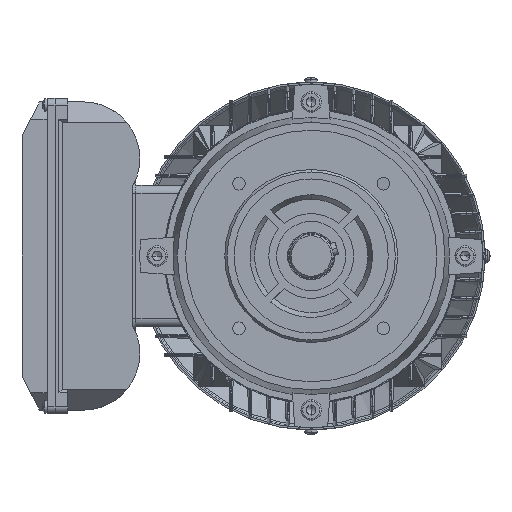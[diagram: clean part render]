
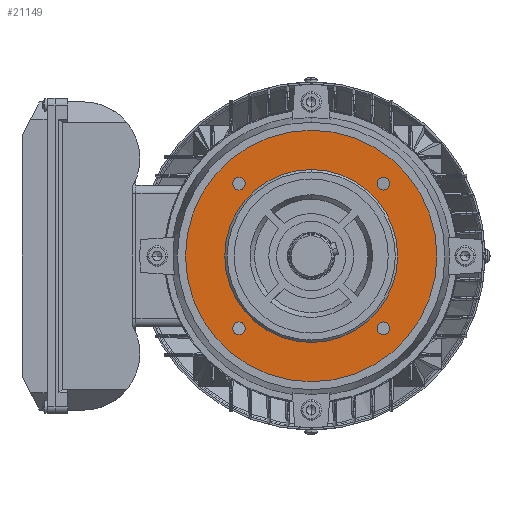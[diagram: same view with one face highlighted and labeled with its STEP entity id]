
A CAD part, left-side view. The second image highlights one B-rep face of the part: STEP entity #21149.
In plain terms, the highlighted planar face has unit normal (-1, 0, 0).
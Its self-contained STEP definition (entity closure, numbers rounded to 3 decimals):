
#2264 = EDGE_CURVE ( 'NONE', #133114, #27767, #58707, .T. ) ;
#2865 = PLANE ( 'NONE',  #82896 ) ;
#6044 = CARTESIAN_POINT ( 'NONE',  ( -144.002, 50.169, -41.962 ) ) ;
#7359 = ORIENTED_EDGE ( 'NONE', *, *, #12200, .T. ) ;
#7698 = CIRCLE ( 'NONE', #38023, 80. ) ;
#7933 = DIRECTION ( 'NONE',  ( -1., 0., 0. ) ) ;
#7934 = DIRECTION ( 'NONE',  ( -1., 0., 0. ) ) ;
#9108 = DIRECTION ( 'NONE',  ( 0., 0., 1. ) ) ;
#9194 = EDGE_CURVE ( 'NONE', #142028, #137079, #45504, .T. ) ;
#10282 = VERTEX_POINT ( 'NONE', #81961 ) ;
#10480 = AXIS2_PLACEMENT_3D ( 'NONE', #91845, #134977, #24678 ) ;
#11156 = AXIS2_PLACEMENT_3D ( 'NONE', #18908, #7933, #131356 ) ;
#12086 = DIRECTION ( 'NONE',  ( 0., 0., 1. ) ) ;
#12200 = EDGE_CURVE ( 'NONE', #10282, #144237, #37989, .T. ) ;
#12598 = CARTESIAN_POINT ( 'NONE',  ( -144.002, 4.207, -80. ) ) ;
#14479 = AXIS2_PLACEMENT_3D ( 'NONE', #131830, #109905, #9108 ) ;
#14653 = AXIS2_PLACEMENT_3D ( 'NONE', #74705, #38204, #16293 ) ;
#16293 = DIRECTION ( 'NONE',  ( 0., 0., -1. ) ) ;
#16483 = ORIENTED_EDGE ( 'NONE', *, *, #89538, .F. ) ;
#16718 = FACE_BOUND ( 'NONE', #20250, .T. ) ;
#18462 = DIRECTION ( 'NONE',  ( 1., 0., 0. ) ) ;
#18908 = CARTESIAN_POINT ( 'NONE',  ( -144.002, -41.755, 45.962 ) ) ;
#20250 = EDGE_LOOP ( 'NONE', ( #97738, #53109 ) ) ;
#21149 = ADVANCED_FACE ( 'NONE', ( #91965, #81731, #104364, #16718, #91246, #26938 ), #2865, .F. ) ;
#21968 = EDGE_LOOP ( 'NONE', ( #127686, #35513 ) ) ;
#23622 = VERTEX_POINT ( 'NONE', #53544 ) ;
#24580 = CARTESIAN_POINT ( 'NONE',  ( -144.002, 50.169, 49.962 ) ) ;
#24678 = DIRECTION ( 'NONE',  ( 0., 0., 1. ) ) ;
#25402 = VERTEX_POINT ( 'NONE', #42986 ) ;
#25496 = DIRECTION ( 'NONE',  ( 0., -1., 0. ) ) ;
#25738 = EDGE_CURVE ( 'NONE', #95005, #59445, #114322, .T. ) ;
#26938 = FACE_BOUND ( 'NONE', #135735, .T. ) ;
#27767 = VERTEX_POINT ( 'NONE', #81804 ) ;
#28448 = EDGE_CURVE ( 'NONE', #135898, #23622, #71522, .T. ) ;
#29508 = CARTESIAN_POINT ( 'NONE',  ( -144.002, -41.755, 41.962 ) ) ;
#29662 = CARTESIAN_POINT ( 'NONE',  ( -144.002, 4.207, 0. ) ) ;
#34003 = CARTESIAN_POINT ( 'NONE',  ( -144.002, -41.755, 45.962 ) ) ;
#35513 = ORIENTED_EDGE ( 'NONE', *, *, #55130, .F. ) ;
#36056 = CIRCLE ( 'NONE', #143343, 55. ) ;
#37989 = CIRCLE ( 'NONE', #14653, 55. ) ;
#38023 = AXIS2_PLACEMENT_3D ( 'NONE', #91375, #48298, #59250 ) ;
#38204 = DIRECTION ( 'NONE',  ( 1., 0., 0. ) ) ;
#39694 = AXIS2_PLACEMENT_3D ( 'NONE', #29662, #106403, #61137 ) ;
#42235 = CIRCLE ( 'NONE', #126230, 4. ) ;
#42986 = CARTESIAN_POINT ( 'NONE',  ( -144.002, -41.755, 49.962 ) ) ;
#43862 = EDGE_CURVE ( 'NONE', #105347, #25402, #144406, .T. ) ;
#45504 = CIRCLE ( 'NONE', #106070, 4. ) ;
#46148 = CARTESIAN_POINT ( 'NONE',  ( -144.002, -41.755, -45.962 ) ) ;
#48184 = CARTESIAN_POINT ( 'NONE',  ( -144.002, 4.207, 55. ) ) ;
#48298 = DIRECTION ( 'NONE',  ( 1., 0., 0. ) ) ;
#50955 = DIRECTION ( 'NONE',  ( 0., 0., 1. ) ) ;
#52094 = ORIENTED_EDGE ( 'NONE', *, *, #95176, .F. ) ;
#53109 = ORIENTED_EDGE ( 'NONE', *, *, #96586, .F. ) ;
#53544 = CARTESIAN_POINT ( 'NONE',  ( -144.002, 50.169, -49.962 ) ) ;
#55130 = EDGE_CURVE ( 'NONE', #23622, #135898, #134168, .T. ) ;
#58707 = CIRCLE ( 'NONE', #114682, 4. ) ;
#59250 = DIRECTION ( 'NONE',  ( 0., 0., -1. ) ) ;
#59354 = DIRECTION ( 'NONE',  ( -1., 0., 0. ) ) ;
#59445 = VERTEX_POINT ( 'NONE', #12598 ) ;
#61137 = DIRECTION ( 'NONE',  ( 0., 0., -1. ) ) ;
#63524 = CIRCLE ( 'NONE', #14479, 4. ) ;
#66198 = DIRECTION ( 'NONE',  ( -1., 0., 0. ) ) ;
#69218 = EDGE_LOOP ( 'NONE', ( #16483, #106775 ) ) ;
#70657 = CARTESIAN_POINT ( 'NONE',  ( -144.002, 4.207, 80. ) ) ;
#71521 = DIRECTION ( 'NONE',  ( 1., 0., 0. ) ) ;
#71522 = CIRCLE ( 'NONE', #97152, 4. ) ;
#74705 = CARTESIAN_POINT ( 'NONE',  ( -144.002, 4.207, 0. ) ) ;
#81597 = ORIENTED_EDGE ( 'NONE', *, *, #124187, .F. ) ;
#81731 = FACE_BOUND ( 'NONE', #113963, .T. ) ;
#81804 = CARTESIAN_POINT ( 'NONE',  ( -144.002, -41.755, -49.962 ) ) ;
#81961 = CARTESIAN_POINT ( 'NONE',  ( -144.002, 4.207, -55. ) ) ;
#82896 = AXIS2_PLACEMENT_3D ( 'NONE', #115325, #71521, #25496 ) ;
#83293 = CARTESIAN_POINT ( 'NONE',  ( -144.002, -41.755, -41.962 ) ) ;
#83770 = AXIS2_PLACEMENT_3D ( 'NONE', #34003, #66198, #12086 ) ;
#86099 = DIRECTION ( 'NONE',  ( 0., 0., 1. ) ) ;
#88219 = EDGE_LOOP ( 'NONE', ( #81597, #99605 ) ) ;
#89538 = EDGE_CURVE ( 'NONE', #25402, #105347, #139535, .T. ) ;
#90659 = DIRECTION ( 'NONE',  ( 0., 0., 1. ) ) ;
#91246 = FACE_BOUND ( 'NONE', #21968, .T. ) ;
#91375 = CARTESIAN_POINT ( 'NONE',  ( -144.002, 4.207, 0. ) ) ;
#91845 = CARTESIAN_POINT ( 'NONE',  ( -144.002, 50.169, -45.962 ) ) ;
#91965 = FACE_OUTER_BOUND ( 'NONE', #88219, .T. ) ;
#93538 = CARTESIAN_POINT ( 'NONE',  ( -144.002, 50.169, 41.962 ) ) ;
#94443 = CARTESIAN_POINT ( 'NONE',  ( -144.002, 4.207, 0. ) ) ;
#94758 = DIRECTION ( 'NONE',  ( -1., 0., 0. ) ) ;
#95005 = VERTEX_POINT ( 'NONE', #70657 ) ;
#95176 = EDGE_CURVE ( 'NONE', #27767, #133114, #42235, .T. ) ;
#96586 = EDGE_CURVE ( 'NONE', #137079, #142028, #63524, .T. ) ;
#97152 = AXIS2_PLACEMENT_3D ( 'NONE', #104269, #94758, #50955 ) ;
#97738 = ORIENTED_EDGE ( 'NONE', *, *, #9194, .F. ) ;
#99605 = ORIENTED_EDGE ( 'NONE', *, *, #25738, .F. ) ;
#104269 = CARTESIAN_POINT ( 'NONE',  ( -144.002, 50.169, -45.962 ) ) ;
#104364 = FACE_BOUND ( 'NONE', #69218, .T. ) ;
#105347 = VERTEX_POINT ( 'NONE', #29508 ) ;
#106070 = AXIS2_PLACEMENT_3D ( 'NONE', #108019, #7934, #86099 ) ;
#106403 = DIRECTION ( 'NONE',  ( 1., 0., 0. ) ) ;
#106775 = ORIENTED_EDGE ( 'NONE', *, *, #43862, .F. ) ;
#108019 = CARTESIAN_POINT ( 'NONE',  ( -144.002, 50.169, 45.962 ) ) ;
#109905 = DIRECTION ( 'NONE',  ( -1., 0., 0. ) ) ;
#113399 = CARTESIAN_POINT ( 'NONE',  ( -144.002, -41.755, -45.962 ) ) ;
#113963 = EDGE_LOOP ( 'NONE', ( #135091, #52094 ) ) ;
#114322 = CIRCLE ( 'NONE', #39694, 80. ) ;
#114682 = AXIS2_PLACEMENT_3D ( 'NONE', #46148, #136664, #90659 ) ;
#115325 = CARTESIAN_POINT ( 'NONE',  ( -144.002, 4.207, -80. ) ) ;
#115639 = EDGE_CURVE ( 'NONE', #144237, #10282, #36056, .T. ) ;
#124187 = EDGE_CURVE ( 'NONE', #59445, #95005, #7698, .T. ) ;
#125764 = DIRECTION ( 'NONE',  ( 0., 0., 1. ) ) ;
#126230 = AXIS2_PLACEMENT_3D ( 'NONE', #113399, #59354, #125764 ) ;
#127318 = DIRECTION ( 'NONE',  ( 0., 0., -1. ) ) ;
#127686 = ORIENTED_EDGE ( 'NONE', *, *, #28448, .F. ) ;
#129297 = ORIENTED_EDGE ( 'NONE', *, *, #115639, .T. ) ;
#131356 = DIRECTION ( 'NONE',  ( 0., 0., 1. ) ) ;
#131830 = CARTESIAN_POINT ( 'NONE',  ( -144.002, 50.169, 45.962 ) ) ;
#133114 = VERTEX_POINT ( 'NONE', #83293 ) ;
#134168 = CIRCLE ( 'NONE', #10480, 4. ) ;
#134977 = DIRECTION ( 'NONE',  ( -1., 0., 0. ) ) ;
#135091 = ORIENTED_EDGE ( 'NONE', *, *, #2264, .F. ) ;
#135735 = EDGE_LOOP ( 'NONE', ( #7359, #129297 ) ) ;
#135898 = VERTEX_POINT ( 'NONE', #6044 ) ;
#136664 = DIRECTION ( 'NONE',  ( -1., 0., 0. ) ) ;
#137079 = VERTEX_POINT ( 'NONE', #93538 ) ;
#139535 = CIRCLE ( 'NONE', #11156, 4. ) ;
#142028 = VERTEX_POINT ( 'NONE', #24580 ) ;
#143343 = AXIS2_PLACEMENT_3D ( 'NONE', #94443, #18462, #127318 ) ;
#144237 = VERTEX_POINT ( 'NONE', #48184 ) ;
#144406 = CIRCLE ( 'NONE', #83770, 4. ) ;
